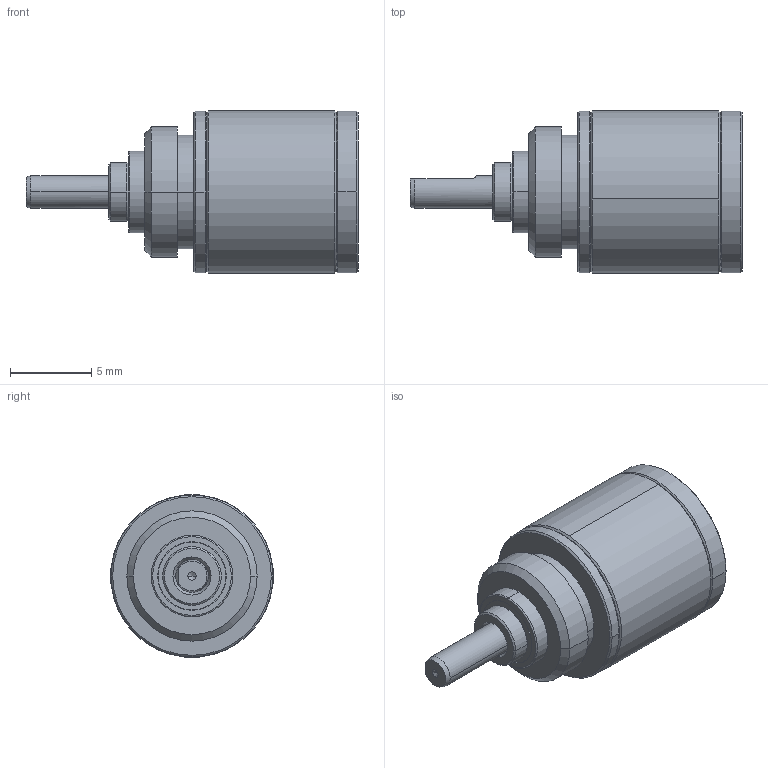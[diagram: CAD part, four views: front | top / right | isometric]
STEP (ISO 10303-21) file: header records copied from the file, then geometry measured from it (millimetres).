
FILE_DESCRIPTION((''),'2;1');
FILE_NAME('218415_GP10A_0_01NM_1ST_KL','2017-01-11T',('mmagpetk'),(''),'CREO PARAMETRIC BY PTC INC, 2016050','CREO PARAMETRIC BY PTC INC, 2016050','');
FILE_SCHEMA(('CONFIG_CONTROL_DESIGN'));
Length unit declared in the file: millimetre
Products named in the file (1): 218415_GP10A_0_01NM_1ST_KL
Bounding box: 20.4 x 9.96 x 9.96 mm (x, y, z)
Volume: 949 mm3; surface area: 650.2 mm2
Topology: 1 solids, 1 shells, 63 faces, 143 edges, 91 vertices
Faces by surface type: cone 25, cylinder 22, plane 14, torus 2
Entity records: 2516 total; most frequent: DIRECTION 350, CARTESIAN_POINT 310, ORIENTED_EDGE 282, PRESENTATION_STYLE_ASSIGNMENT 157, AXIS2_PLACEMENT_3D 150, STYLED_ITEM 142, CURVE_STYLE 141, EDGE_CURVE 141
